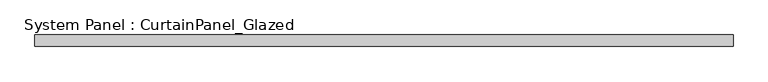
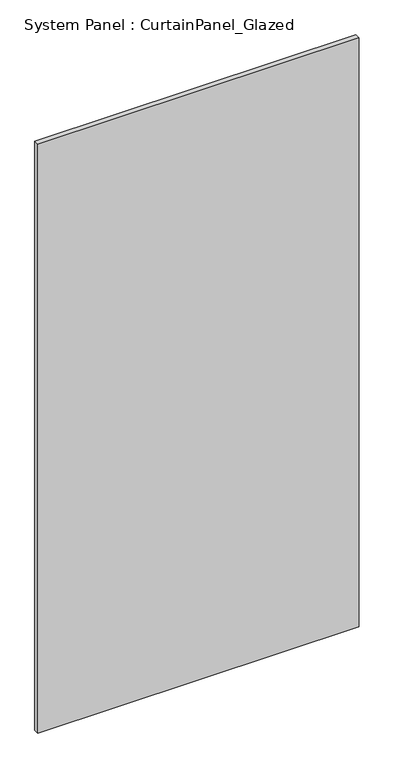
"""IFC4 building model written with IfcOpenShell, lengths in millimetres: plate geometry, System Panel : CurtainPanel_Glazed."""

from ifc_helpers import new_model, si_unit, origin, origin_with_axes, place, context, project, spatial, polyline, outline, extrude, source, transform, mapped, element, save


def system_panel_curtainpanel_glazed_7c054268(model_context):
    return source(origin(), model_context, "Body", "SweptSolid", [
        extrude(outline(polyline([(755.5555557, -12.5), (-755.5555557, -12.5), (-755.5555557, 12.5), (755.5555557, 12.5), (755.5555557, -12.5)])), origin_with_axes(), (0.0, 0.0, 1.0), 2925.0),
    ])


if __name__ == "__main__":
    model = new_model("IFC4")
    model_context = context("Model", 3, world=origin())
    ifc_project = project(units=[si_unit("LENGTHUNIT", "METRE", prefix="MILLI")], contexts=[model_context])
    site = spatial("IfcSite", under=ifc_project)
    building = spatial("IfcBuilding", under=site)
    placement = place(None, origin())
    system_panel_curtainpanel_glazed_shape = system_panel_curtainpanel_glazed_7c054268(model_context)
    element("IfcPlate", 1, ObjectType="System Panel : CurtainPanel_Glazed", at=placement, inside=building, context=model_context, shape_type="MappedRepresentation", body=[
        mapped(system_panel_curtainpanel_glazed_shape, transform((0.0, 0.0, 0.0), x_axis=(1.0, 0.0, 0.0), y_axis=(0.0, 1.0, 0.0), z_axis=(0.0, 0.0, 1.0))),
    ])
    save(model, "model.ifc")
